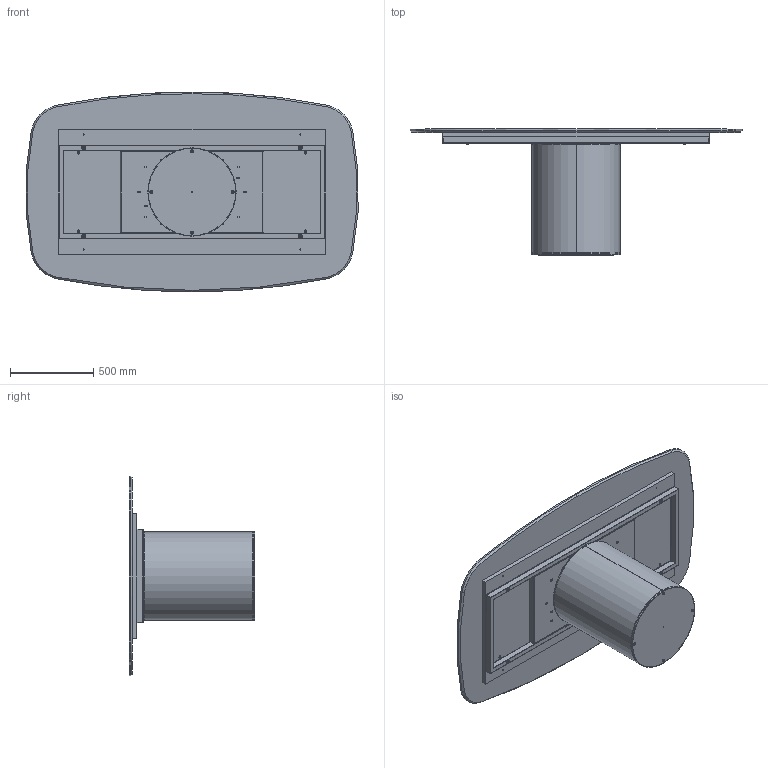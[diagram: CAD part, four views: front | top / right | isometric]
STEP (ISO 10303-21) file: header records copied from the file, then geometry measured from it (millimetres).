
FILE_DESCRIPTION (( 'STEP AP203' ), '1' );
FILE_NAME ('CI41M.STEP', '2024-08-08T07:25:13', ( '' ), ( '' ), 'SwSTEP 2.0', 'SolidWorks 2022', '' );
FILE_SCHEMA (( 'CONFIG_CONTROL_DESIGN' ));
Length unit declared in the file: millimetre
Products named in the file (14): M4XMXX-00-Piani Sagomati in marmo_2000x1200; M4X-00-Piani Sagomati in marmo_2000 x 1200; TTAV01_02-05-VASSOIO IRRIGIDIMENTO TELAIO UNIVERSALE; CI41M; COLLO TELAIO UNIVERSALE TTAV01 CON FERRAMENTA_MTG TOP LEGNO-MARMO-KING; C2B000000_01-00-struttura cilindro D.530mm; C2B000000-03-CILINDRO BASE D.530mm_Normale; TTAV01-05-TELAIO UNIVERSALE X TAVOLI 180 240cm; M8xXXmm_hex_M8X20mm; TRUXXXXXX-00-NOBILITATO GR CON SUPP TRUCIOLARE SP. 25_TRU00004_1600x720; M8xXXmm_M8x55mm; rondella M8_8X24; TTAV01_01-05-TELAIO UNIVERSALE X TAVOLI 180 240cm; C2B000000_02-01-ZAVORRA IN FERRO D.530mm
Assembly tree (22 placements, depth 4):
  CI41M
    C2B000000-03-CILINDRO BASE D.530mm_Normale
      C2B000000_01-00-struttura cilindro D.530mm
      C2B000000_02-01-ZAVORRA IN FERRO D.530mm
      M8xXXmm_hex_M8X20mm  x4
    COLLO TELAIO UNIVERSALE TTAV01 CON FERRAMENTA_MTG TOP LEGNO-MARMO-KING
      TTAV01-05-TELAIO UNIVERSALE X TAVOLI 180 240cm
        TTAV01_02-05-VASSOIO IRRIGIDIMENTO TELAIO UNIVERSALE
        TTAV01_01-05-TELAIO UNIVERSALE X TAVOLI 180 240cm
      rondella M8_8X24  x4
      M8xXXmm_M8x55mm  x4
    M4XMXX-00-Piani Sagomati in marmo_2000x1200
      M4X-00-Piani Sagomati in marmo_2000 x 1200
      TRUXXXXXX-00-NOBILITATO GR CON SUPP TRUCIOLARE SP. 25_TRU00004_1600x720
Bounding box: 1992.14 x 755 x 1200 mm (x, y, z)
Volume: 82108172.1 mm3; surface area: 12084464.1 mm2
Topology: 21 solids, 21 shells, 776 faces, 1828 edges, 1061 vertices
Faces by surface type: plane 298, cylinder 277, cone 123, torus 56, sphere 22
Entity records: 17459 total; most frequent: DIRECTION 2911, CARTESIAN_POINT 2711, ORIENTED_EDGE 2548, EDGE_CURVE 1274, AXIS2_PLACEMENT_3D 1102, VERTEX_POINT 784, LINE 707, VECTOR 707
